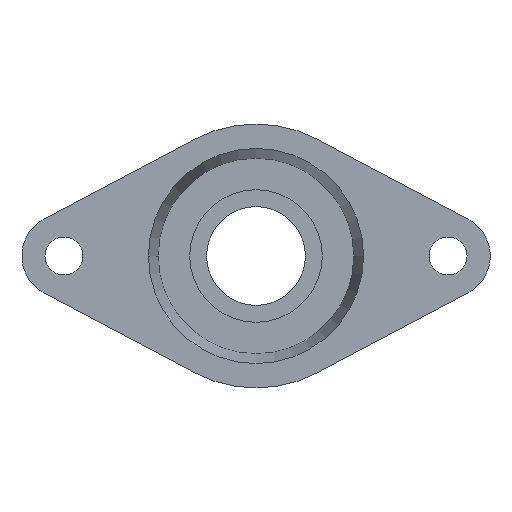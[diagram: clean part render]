
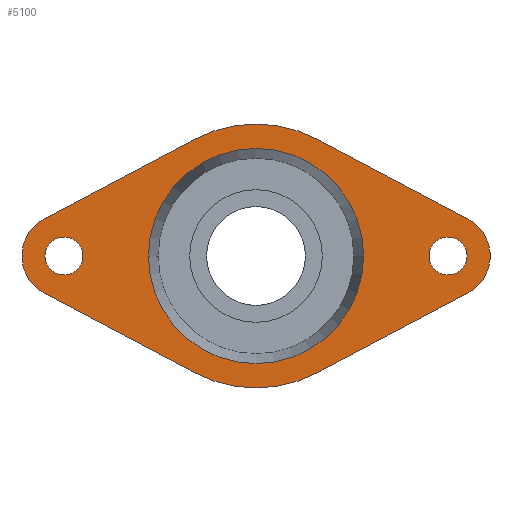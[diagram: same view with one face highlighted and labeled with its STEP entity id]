
A CAD part, left-side view. The second image highlights one B-rep face of the part: STEP entity #5100.
In plain terms, the highlighted planar face has unit normal (-1, 0, 0).
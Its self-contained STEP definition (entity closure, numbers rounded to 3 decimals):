
#120=CARTESIAN_POINT('',(-20.,32.612,0.));
#130=VERTEX_POINT('',#120);
#290=CARTESIAN_POINT('',(-20.,-32.612,0.));
#300=VERTEX_POINT('VERTEX9127',#290);
#330=CARTESIAN_POINT('',(-20.,0.,0.));
#340=DIRECTION('',(-1.,0.,0.));
#350=DIRECTION('',(0.,1.,0.));
#360=AXIS2_PLACEMENT_3D('',#330,#340,#350);
#370=CIRCLE('',#360,32.612);
#380=EDGE_CURVE('EDGE13757',#130,#300,#370,.T.);
#540=CARTESIAN_POINT('',(-20.,-64.215,-11.269));
#550=VERTEX_POINT('',#540);
#700=CARTESIAN_POINT('',(-20.,-18.712,-35.353));
#710=VERTEX_POINT('',#700);
#740=CARTESIAN_POINT('',(-20.,0.,-45.258));
#750=DIRECTION('',(0.,0.884,-0.468));
#760=VECTOR('',#750,1.);
#770=LINE('',#740,#760);
#780=EDGE_CURVE('',#550,#710,#770,.T.);
#940=CARTESIAN_POINT('',(-20.,18.712,35.353));
#950=VERTEX_POINT('',#940);
#1110=CARTESIAN_POINT('',(-20.,-18.712,35.353));
#1120=VERTEX_POINT('',#1110);
#1150=CARTESIAN_POINT('',(-20.,0.,0.))
;
#1160=DIRECTION('',(-1.,0.,0.));
#1170=DIRECTION('',(0.,0.468,0.884));
#1180=AXIS2_PLACEMENT_3D('',#1150,#1160,#1170);
#1190=CIRCLE('',#1180,40.);
#1200=EDGE_CURVE('',#1120,#950,#1190,.T.);
#1860=CARTESIAN_POINT('',(-20.,58.25,-5.75));
#1870=VERTEX_POINT('VERTEX9132',#1860);
#2030=CARTESIAN_POINT('',(-20.,58.25,5.75));
#2040=VERTEX_POINT('',#2030);
#2070=CARTESIAN_POINT('',(-20.,58.25,0.));
#2080=DIRECTION('',(1.,0.,0.));
#2090=DIRECTION('',(0.,0.,-1.));
#2100=AXIS2_PLACEMENT_3D('',#2070,#2080,#2090);
#2110=CIRCLE('',#2100,5.75);
#2120=EDGE_CURVE('EDGE13771',#2040,#1870,#2110,.T.);
#2280=CARTESIAN_POINT('',(-20.,-64.215,11.269));
#2290=VERTEX_POINT('',#2280);
#2320=CARTESIAN_POINT('',(-20.,0.,45.258));
#2330=DIRECTION('',(0.,-0.884,-0.468));
#2340=VECTOR('',#2330,1.);
#2350=LINE('',#2320,#2340);
#2360=EDGE_CURVE('',#1120,#2290,#2350,.T.);
#2500=CARTESIAN_POINT('',(-20.,-58.25,-5.75));
#2510=VERTEX_POINT('',#2500);
#2540=CARTESIAN_POINT('',(-20.,-58.25,0.));
#2550=DIRECTION('',(1.,0.,0.));
#2560=DIRECTION('',(0.,0.,-1.));
#2570=AXIS2_PLACEMENT_3D('',#2540,#2550,#2560);
#2580=CIRCLE('',#2570,5.75);
#2590=CARTESIAN_POINT('',(-20.,-58.25,5.75));
#2600=VERTEX_POINT('VERTEX9138',#2590);
#2610=EDGE_CURVE('EDGE13773',#2510,#2600,#2580,.T.);
#3070=CARTESIAN_POINT('',(-20.,-58.25,0.));
#3080=DIRECTION('',(-1.,0.,0.));
#3090=DIRECTION('',(0.,-0.468,0.884));
#3100=AXIS2_PLACEMENT_3D('',#3070,#3080,#3090);
#3110=CIRCLE('',#3100,12.75);
#3120=EDGE_CURVE('EDGE13778',#550,#2290,#3110,.T.);
#3700=CARTESIAN_POINT('',(-20.,64.215,-11.269));
#3710=VERTEX_POINT('',#3700);
#3790=CARTESIAN_POINT('',(-20.,64.215,11.269));
#3800=VERTEX_POINT('',#3790);
#3830=CARTESIAN_POINT('',(-20.,58.25,0.));
#3840=DIRECTION('',(-1.,0.,0.));
#3850=DIRECTION('',(0.,0.468,-0.884));
#3860=AXIS2_PLACEMENT_3D('',#3830,#3840,#3850);
#3870=CIRCLE('',#3860,12.75);
#3880=EDGE_CURVE('EDGE13782',#3800,#3710,#3870,.T.);
#4100=CARTESIAN_POINT('',(-20.,18.712,-35.353));
#4110=VERTEX_POINT('',#4100);
#4140=CARTESIAN_POINT('',(-20.,0.,0.
));
#4150=DIRECTION('',(-1.,0.,0.));
#4160=DIRECTION('',(0.,-0.468,-0.884));
#4170=AXIS2_PLACEMENT_3D('',#4140,#4150,#4160);
#4180=CIRCLE('',#4170,40.);
#4190=EDGE_CURVE('',#4110,#710,#4180,.T.);
#4300=CARTESIAN_POINT('',(-20.,0.,45.258));
#4310=DIRECTION('',(0.,-0.884,0.468));
#4320=VECTOR('',#4310,1.);
#4330=LINE('',#4300,#4320);
#4340=EDGE_CURVE('',#3800,#950,#4330,.T.);
#4750=CARTESIAN_POINT('',(-20.,87.306,0.));
#4760=DIRECTION('',(-1.,0.,0.));
#4770=DIRECTION('',(0.,1.,0.));
#4780=AXIS2_PLACEMENT_3D('',#4750,#4760,#4770);
#4790=PLANE('',#4780);
#4800=ORIENTED_EDGE('',*,*,#4340,.F.);
#4810=ORIENTED_EDGE('',*,*,#1200,.T.);
#4820=ORIENTED_EDGE('',*,*,#2360,.F.);
#4830=ORIENTED_EDGE('',*,*,#3120,.T.);
#4840=ORIENTED_EDGE('',*,*,#780,.F.);
#4850=ORIENTED_EDGE('',*,*,#4190,.T.);
#4860=CARTESIAN_POINT('',(-20.,0.,-45.258));
#4870=DIRECTION('',(0.,0.884,0.468));
#4880=VECTOR('',#4870,1.);
#4890=LINE('',#4860,#4880);
#4900=EDGE_CURVE('',#4110,#3710,#4890,.T.);
#4910=ORIENTED_EDGE('',*,*,#4900,.F.);
#4920=ORIENTED_EDGE('',*,*,#3880,.T.);
#4930=EDGE_LOOP('',(#4920,#4910,#4850,#4840,#4830,#4820,#4810,#4800));
#4940=FACE_OUTER_BOUND('',#4930,.T.);
#4950=EDGE_CURVE('',#2600,#2510,#2580,.T.);
#4960=ORIENTED_EDGE('',*,*,#4950,.T.);
#4970=ORIENTED_EDGE('',*,*,#2610,.T.);
#4980=EDGE_LOOP('',(#4970,#4960));
#4990=FACE_BOUND('',#4980,.T.);
#5000=EDGE_CURVE('',#1870,#2040,#2110,.T.);
#5010=ORIENTED_EDGE('',*,*,#5000,.T.);
#5020=ORIENTED_EDGE('',*,*,#2120,.T.);
#5030=EDGE_LOOP('',(#5020,#5010));
#5040=FACE_BOUND('',#5030,.T.);
#5050=EDGE_CURVE('',#300,#130,#370,.T.);
#5060=ORIENTED_EDGE('',*,*,#5050,.F.);
#5070=ORIENTED_EDGE('',*,*,#380,.F.);
#5080=EDGE_LOOP('',(#5070,#5060));
#5090=FACE_BOUND('',#5080,.T.);
#5100=ADVANCED_FACE('',(#4940,#4990,#5040,#5090),#4790,.T.);
